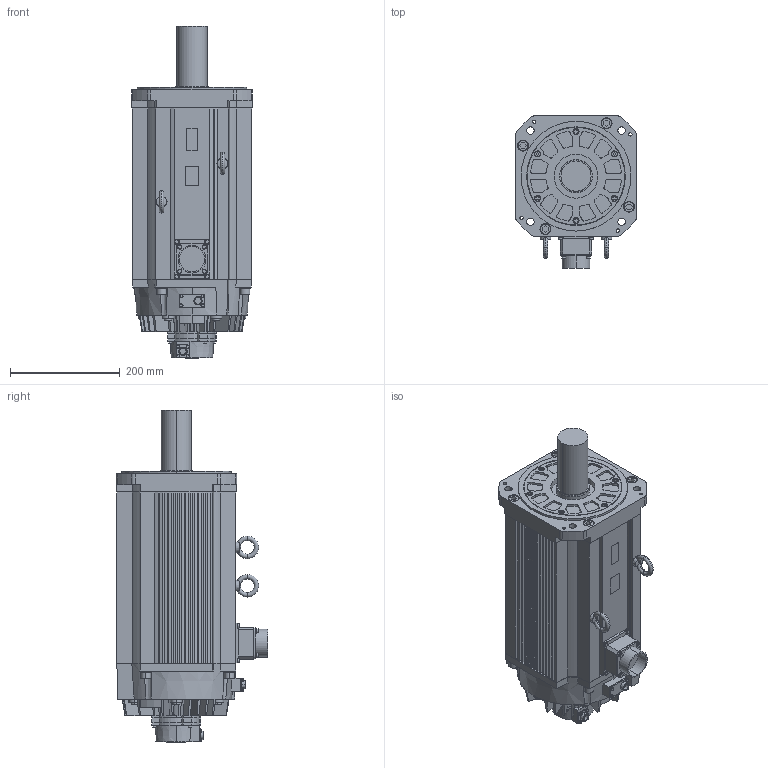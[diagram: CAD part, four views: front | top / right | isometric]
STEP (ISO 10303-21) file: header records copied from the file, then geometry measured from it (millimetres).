
FILE_DESCRIPTION (( 'STEP AP203' ), '1' );
FILE_NAME ('sgm7g_1ea6a2c.STEP', '2016-11-12T04:52:16', ( '匠エンジニアリング山之内' ), ( 'TAKUMI-Engniaring' ), 'SwSTEP 2.0', 'SolidWorks 2006303', '' );
FILE_SCHEMA (( 'CONFIG_CONTROL_DESIGN' ));
Length unit declared in the file: millimetre
Products named in the file (3): sgm7g_1ea6a2c; sgm7g_1ea6a2c_base; sgm7g_1ea6a2c_eyebolt
Assembly tree (3 placements, depth 2):
  sgm7g_1ea6a2c
    sgm7g_1ea6a2c_eyebolt  x2
    sgm7g_1ea6a2c_base
Bounding box: 220 x 277.08 x 605.3 mm (x, y, z)
Volume: 17143273.5 mm3; surface area: 822332 mm2
Topology: 3 solids, 3 shells, 1363 faces, 3492 edges, 2283 vertices
Faces by surface type: plane 830, cylinder 459, cone 64, torus 8, bspline 2
Entity records: 41643 total; most frequent: CARTESIAN_POINT 7634, DIRECTION 7111, ORIENTED_EDGE 6930, EDGE_CURVE 3465, AXIS2_PLACEMENT_3D 2413, VECTOR 2285, LINE 2285, VERTEX_POINT 2267
